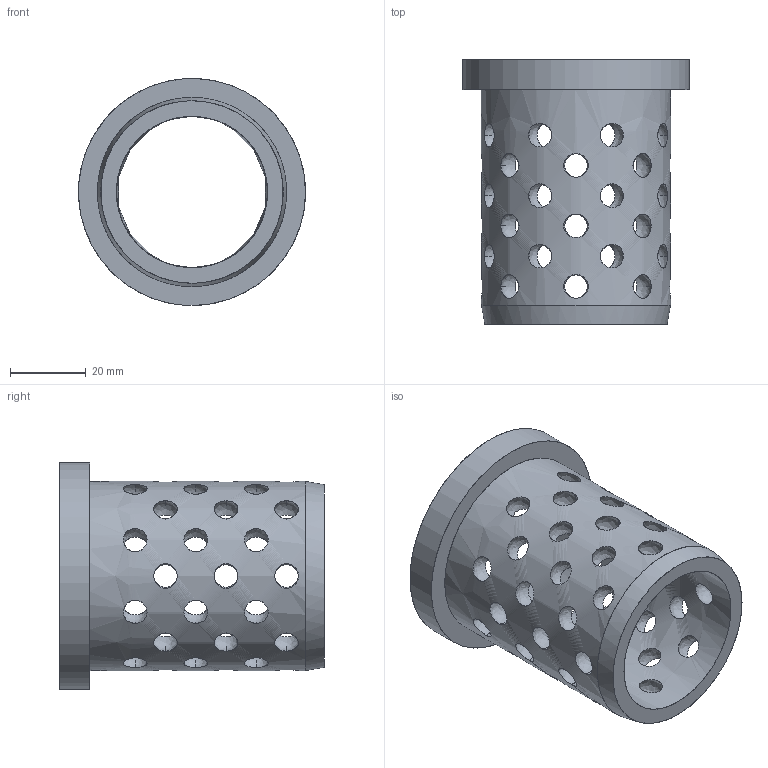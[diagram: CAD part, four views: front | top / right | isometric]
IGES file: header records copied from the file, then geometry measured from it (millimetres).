
Start section: Missler Software BP 521, 31674 Labege Cedex, France Tel   : +33 (0)5 61 00 03 00 Fax   : +33 (0)5 61 00 03 03 Email : sup.topsolid@topsolid.com
Global section: file name: C:\Documents and Settings\EXPER\Desktop\Cuma\D31 Serisi\D31_4070.igs; native system: TopSolid v605250 Missler Software; preprocessor: IGES preprocessor v100000; date: 030101.010025; units: millimetre
Bounding box: 60 x 70 x 60 mm (x, y, z)
Surface area: 25878.2 mm2 (no closed solid volume)
Topology: 0 solids, 0 shells, 56 faces, 3776 edges, 3674 vertices
Faces by surface type: bspline 56
